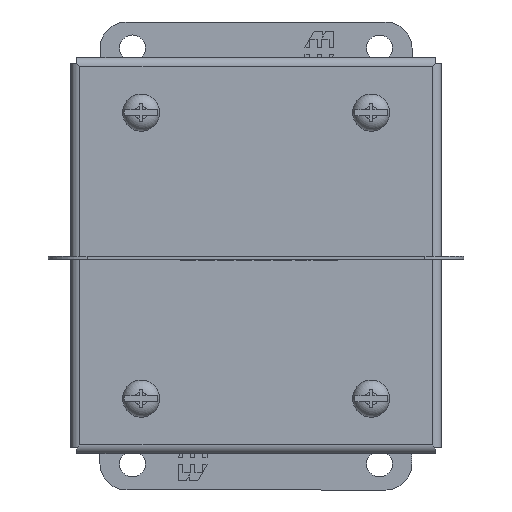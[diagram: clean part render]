
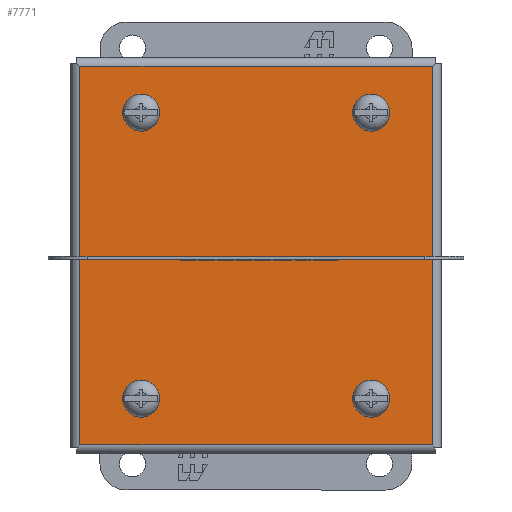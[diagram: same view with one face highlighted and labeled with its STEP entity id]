
A CAD part, front view. The second image highlights one B-rep face of the part: STEP entity #7771.
In plain terms, the highlighted planar face has unit normal (0, -1, 0) as drawn and (0, 1, 0) by its records, which use the part's own axes.
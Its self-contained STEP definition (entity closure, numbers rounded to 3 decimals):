
#606=LINE('',#11281,#1319);
#607=LINE('',#11284,#1320);
#608=LINE('',#11286,#1321);
#609=LINE('',#11288,#1322);
#1319=VECTOR('',#9136,1000.);
#1320=VECTOR('',#9137,1000.);
#1321=VECTOR('',#9138,1000.);
#1322=VECTOR('',#9139,1000.);
#2122=ORIENTED_EDGE('',*,*,#4301,.T.);
#2123=ORIENTED_EDGE('',*,*,#4302,.T.);
#2124=ORIENTED_EDGE('',*,*,#4303,.T.);
#2125=ORIENTED_EDGE('',*,*,#4304,.T.);
#2126=ORIENTED_EDGE('',*,*,#4305,.F.);
#2127=ORIENTED_EDGE('',*,*,#4306,.T.);
#2128=ORIENTED_EDGE('',*,*,#4307,.F.);
#2129=ORIENTED_EDGE('',*,*,#4308,.F.);
#4301=EDGE_CURVE('',#5403,#5403,#6121,.T.);
#4302=EDGE_CURVE('',#5404,#5404,#6122,.T.);
#4303=EDGE_CURVE('',#5405,#5405,#6123,.T.);
#4304=EDGE_CURVE('',#5406,#5406,#6124,.T.);
#4305=EDGE_CURVE('',#5407,#5408,#606,.T.);
#4306=EDGE_CURVE('',#5407,#5409,#607,.T.);
#4307=EDGE_CURVE('',#5410,#5409,#608,.T.);
#4308=EDGE_CURVE('',#5408,#5410,#609,.T.);
#5403=VERTEX_POINT('',#11274);
#5404=VERTEX_POINT('',#11276);
#5405=VERTEX_POINT('',#11278);
#5406=VERTEX_POINT('',#11280);
#5407=VERTEX_POINT('',#11282);
#5408=VERTEX_POINT('',#11283);
#5409=VERTEX_POINT('',#11285);
#5410=VERTEX_POINT('',#11287);
#6121=CIRCLE('',#8333,3.175);
#6122=CIRCLE('',#8334,3.175);
#6123=CIRCLE('',#8335,3.175);
#6124=CIRCLE('',#8336,3.175);
#6350=EDGE_LOOP('',(#2122));
#6351=EDGE_LOOP('',(#2123));
#6352=EDGE_LOOP('',(#2124));
#6353=EDGE_LOOP('',(#2125));
#6354=EDGE_LOOP('',(#2126,#2127,#2128,#2129));
#6911=FACE_BOUND('',#6350,.T.);
#6912=FACE_BOUND('',#6351,.T.);
#6913=FACE_BOUND('',#6352,.T.);
#6914=FACE_BOUND('',#6353,.T.);
#6915=FACE_BOUND('',#6354,.T.);
#7450=PLANE('',#8332);
#7771=ADVANCED_FACE('',(#6911,#6912,#6913,#6914,#6915),#7450,.F.);
#8332=AXIS2_PLACEMENT_3D('',#11272,#9126,#9127);
#8333=AXIS2_PLACEMENT_3D('',#11273,#9128,#9129);
#8334=AXIS2_PLACEMENT_3D('',#11275,#9130,#9131);
#8335=AXIS2_PLACEMENT_3D('',#11277,#9132,#9133);
#8336=AXIS2_PLACEMENT_3D('',#11279,#9134,#9135);
#9126=DIRECTION('',(0.,-1.,0.));
#9127=DIRECTION('',(0.,0.,-1.));
#9128=DIRECTION('',(0.,-1.,0.));
#9129=DIRECTION('',(0.,0.,-1.));
#9130=DIRECTION('',(0.,-1.,0.));
#9131=DIRECTION('',(0.,0.,-1.));
#9132=DIRECTION('',(0.,-1.,0.));
#9133=DIRECTION('',(0.,0.,-1.));
#9134=DIRECTION('',(0.,-1.,0.));
#9135=DIRECTION('',(0.,0.,-1.));
#9136=DIRECTION('',(-1.,0.,0.));
#9137=DIRECTION('',(0.,0.,-1.));
#9138=DIRECTION('',(1.,0.,0.));
#9139=DIRECTION('',(0.,0.,-1.));
#11272=CARTESIAN_POINT('',(-45.237,0.,-48.412));
#11273=CARTESIAN_POINT('',(-28.092,0.,34.925));
#11274=CARTESIAN_POINT('',(-28.092,0.,31.75));
#11275=CARTESIAN_POINT('',(-28.092,0.,-34.925));
#11276=CARTESIAN_POINT('',(-28.092,0.,-38.1));
#11277=CARTESIAN_POINT('',(28.092,0.,-34.925));
#11278=CARTESIAN_POINT('',(28.092,0.,-38.1));
#11279=CARTESIAN_POINT('',(28.092,0.,34.925));
#11280=CARTESIAN_POINT('',(28.092,0.,31.75));
#11281=CARTESIAN_POINT('',(43.053,0.,46.228));
#11282=CARTESIAN_POINT('',(43.053,0.,46.228));
#11283=CARTESIAN_POINT('',(-43.053,0.,46.228));
#11284=CARTESIAN_POINT('',(43.053,0.,46.228));
#11285=CARTESIAN_POINT('',(43.053,0.,-46.228));
#11286=CARTESIAN_POINT('',(-43.053,0.,-46.228));
#11287=CARTESIAN_POINT('',(-43.053,0.,-46.228));
#11288=CARTESIAN_POINT('',(-43.053,0.,46.228));
